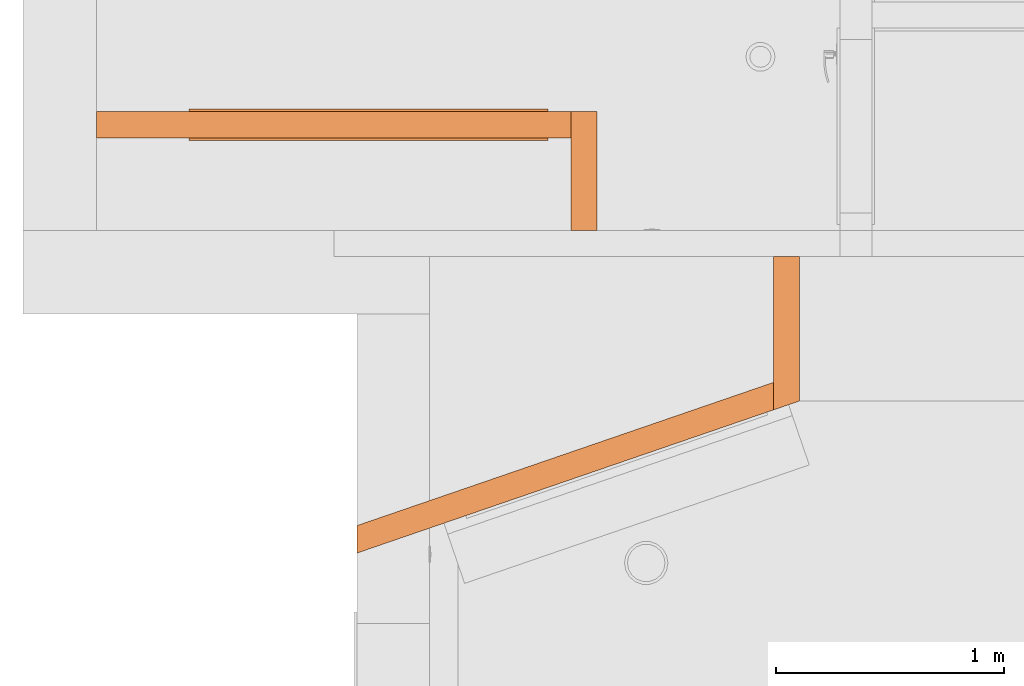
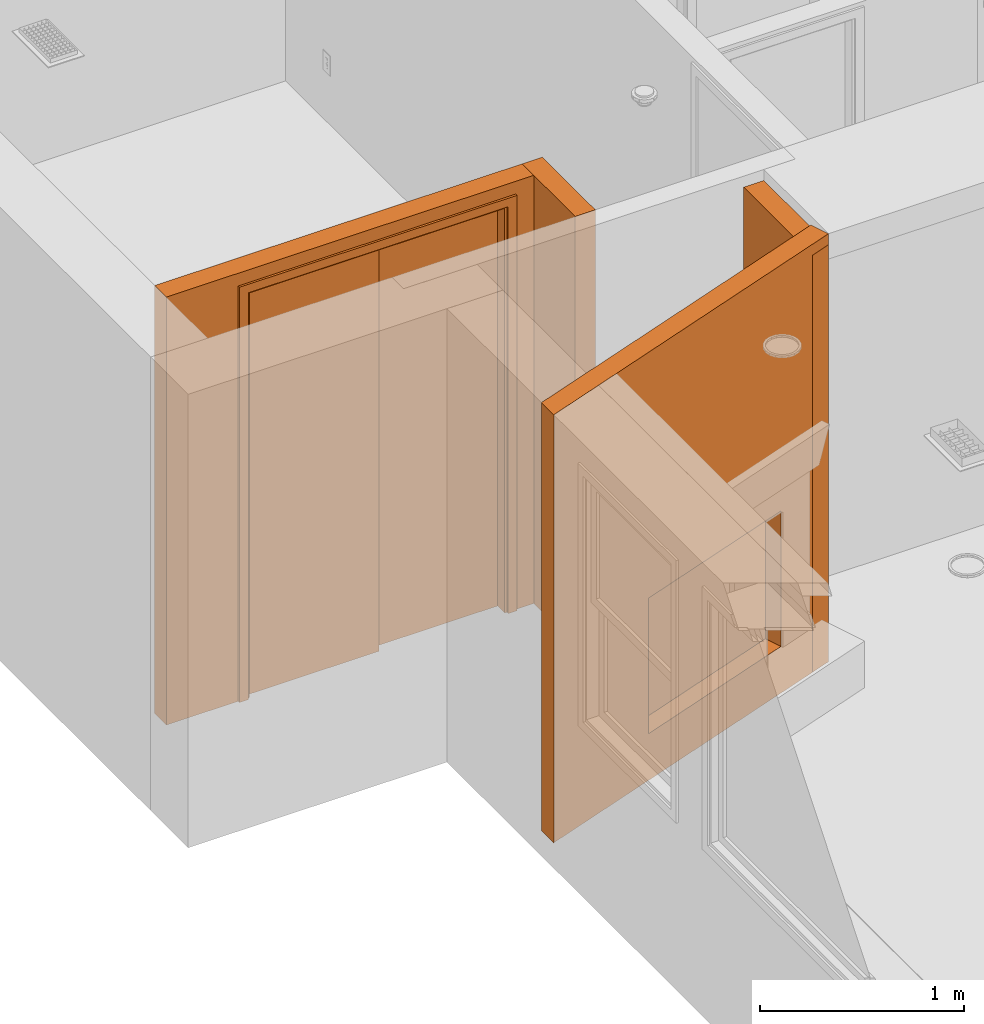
# One storey, part 39 of 48: 5 proxies.
"""IFC2X3 building model written with IfcOpenShell, lengths in inches."""

from ifc_helpers import new_model, entity, si_unit, converted_unit, derived_unit, money_unit, direction, frame, origin_with_axes, place, context, subcontext, project, spatial, faceted_brep, material, type_object, element, save


model = new_model("IFC2X3")

# Units and contexts
model_context = context("Model", 3, precision=0.00039370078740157, world=origin_with_axes(), true_north=direction((0.0, 1.0)))
plan_context = context("Plan", 3, precision=0.00039370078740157, world=origin_with_axes(), true_north=direction((0.0, 1.0)))
body_context = subcontext(model_context, "Body", "Model", "MODEL_VIEW")
ifc_project = project(units=[converted_unit("LENGTHUNIT", "INCH", entity("IfcPositiveLengthMeasure", 0.0254), si_unit("LENGTHUNIT", "METRE"), dimensions=[1, 0, 0, 0, 0, 0, 0]), converted_unit("AREAUNIT", "SQUARE_FOOT", entity("IfcPositiveLengthMeasure", 0.09290304), si_unit("AREAUNIT", "SQUARE_METRE"), dimensions=[2, 0, 0, 0, 0, 0, 0]), si_unit("PLANEANGLEUNIT", "RADIAN"), si_unit("SOLIDANGLEUNIT", "STERADIAN"), money_unit("USD"), converted_unit("TIMEUNIT", "Year", entity("IfcTimeMeasure", 31557600.0), si_unit("TIMEUNIT", "SECOND"), dimensions=[0, 0, 1, 0, 0, 0, 0]), si_unit("MASSUNIT", "GRAM", prefix="KILO"), si_unit("THERMODYNAMICTEMPERATUREUNIT", "DEGREE_CELSIUS"), si_unit("LUMINOUSINTENSITYUNIT", "LUMEN"), si_unit("ENERGYUNIT", "JOULE", prefix="MEGA"), derived_unit("SPECIFICHEATCAPACITYUNIT", [(si_unit("ENERGYUNIT", "JOULE"), 1), (si_unit("MASSUNIT", "GRAM", prefix="KILO"), -1), (si_unit("THERMODYNAMICTEMPERATUREUNIT", "KELVIN"), -1)])], contexts=[model_context, plan_context])

# Site, building, storey
site_placement = place(None, origin_with_axes())
site = spatial("IfcSite", under=ifc_project, at=site_placement, Name="Site", CompositionType="ELEMENT")
building_placement = place(site_placement, origin_with_axes())
building = spatial("IfcBuilding", under=site, at=building_placement, Name="Building", CompositionType="ELEMENT")
storey_placement = place(building_placement, origin_with_axes())
storey = spatial("IfcBuildingStorey", under=building, at=storey_placement, Name="First Floor", CompositionType="ELEMENT", Elevation=0.0)

# Proxies
ifc_material = material(Name="Generic - Structural")
building_element_proxy_type_1 = type_object("IfcBuildingElementProxyType", Name="Generic - Structural 4 1/2\"", PredefinedType="NOTDEFINED")
proxy_1_placement = place(storey_placement, frame((-128.0000381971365, 357.4999999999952, 0.0), z_axis=(0.0, 0.0, 1.0), x_axis=(-0.9456864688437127, -0.3250801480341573, 0.0)))
element("IfcBuildingElementProxy", 1, at=proxy_1_placement, inside=storey, type_object=building_element_proxy_type_1, material=ifc_material, Name="SW - 018", context=body_context, shape_type="Brep", body=[
    faceted_brep([(0.0, -4.500000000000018, 98.40281798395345), (0.0, -4.500000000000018, 100.9999999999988), (0.0, 0.0, 100.9999999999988), (0.0, 0.0, 98.40281798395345), (79.34670242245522, -4.500000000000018, 100.9999999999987), (67.67566799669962, -4.499999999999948, 100.9999999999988), (3.211566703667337, -4.499999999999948, 98.40281798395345), (3.211566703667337, -4.499999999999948, 0.0), (79.34670242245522, -4.500000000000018, 0.0), (67.67566799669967, 0.0, 100.9999999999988), (80.8935794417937, 0.0, 100.9999999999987), (80.89357944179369, 0.0, 0.0), (4.758450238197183, 0.0, 0.0), (4.758450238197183, 0.0, 98.40281798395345), (52.9999999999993, 0.0, 42.99999999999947), (13.99999999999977, 0.0, 42.99999999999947), (13.99999999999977, 0.0, 10.99999999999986), (52.9999999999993, 0.0, 10.99999999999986), (52.99999999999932, -4.00000000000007, 42.99999999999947), (13.99999999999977, -4.00000000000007, 42.99999999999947), (13.99999999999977, -4.00000000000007, 10.99999999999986), (52.99999999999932, -4.00000000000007, 10.99999999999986)], [[[0, 1, 2, 3]], [[4, 5, 1, 0, 6, 7, 8]], [[5, 9, 2, 1]], [[3, 2, 9, 10, 11, 12, 13], [14, 15, 16, 17]], [[13, 6, 0, 3]], [[10, 9, 5, 4]], [[13, 12, 7, 6]], [[11, 8, 7, 12]], [[10, 4, 8, 11]], [[14, 18, 19, 15]], [[15, 19, 20, 16]], [[16, 20, 21, 17]], [[17, 21, 18, 14]], [[18, 21, 20, 19]]]),
])
proxy_2_placement = place(storey_placement, frame((-162.999999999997, 386.9999999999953, 0.0), z_axis=(0.0, 0.0, 1.0), x_axis=(0.0, 1.0, 0.0)))
element("IfcBuildingElementProxy", 2, at=proxy_2_placement, inside=storey, type_object=building_element_proxy_type_1, material=ifc_material, Name="W-16", context=body_context, shape_type="Brep", body=[
    faceted_brep([(20.49999999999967, 0.0, 100.9999999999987), (20.49999999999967, 4.499999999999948, 100.9999999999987), (0.0, 4.499999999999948, 100.9999999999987), (0.0, 0.0, 100.9999999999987), (20.49999999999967, 0.0, 0.0), (20.49999999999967, 4.499999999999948, 0.0), (0.0, 4.499999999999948, 0.0), (0.0, 0.0, 0.0)], [[[0, 1, 2, 3]], [[1, 0, 4, 5]], [[1, 5, 6, 2]], [[7, 3, 2, 6]], [[4, 0, 3, 7]], [[5, 4, 7, 6]]]),
])
proxy_3_placement = place(storey_placement, frame((-127.9999999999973, 386.9999999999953, 0.0), z_axis=(0.0, 0.0, 1.0), x_axis=(-1.29481827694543e-06, -0.9999999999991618, 0.0)))
element("IfcBuildingElementProxy", 3, at=proxy_3_placement, inside=storey, type_object=building_element_proxy_type_1, material=ifc_material, Name="SW - 017", context=body_context, shape_type="Brep", body=[
    faceted_brep([(29.50000000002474, 0.0, 98.40281798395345), (4.500000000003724, 0.0, 98.40281798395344), (4.500005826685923, -4.49999999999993, 98.40281798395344), (31.04688353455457, -4.499999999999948, 98.40281798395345), (29.50000000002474, 0.0, 0.0), (4.500000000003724, 0.0, 0.0), (4.500005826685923, -4.49999999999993, 0.0), (31.04688353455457, -4.499999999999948, 0.0)], [[[0, 1, 2, 3]], [[4, 5, 1, 0]], [[5, 6, 2, 1]], [[3, 2, 6, 7]], [[0, 3, 7, 4]], [[7, 6, 5, 4]]]),
])
proxy_4_placement = place(storey_placement, frame((-162.999999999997, 407.4999999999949, 0.0), z_axis=(0.0, 0.0, 1.0), x_axis=(-1.0, 0.0, 0.0)))
element("IfcBuildingElementProxy", 4, at=proxy_4_placement, inside=storey, type_object=building_element_proxy_type_1, material=ifc_material, Name="W-17", context=body_context, shape_type="Brep", body=[
    faceted_brep([(68.49707239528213, 0.0, 95.9999999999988), (68.49707239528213, 0.0, 0.0), (86.49999999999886, 0.0, 0.0), (86.49999999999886, 0.0, 100.9999999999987), (4.499999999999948, 0.0, 100.9999999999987), (4.499999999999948, 0.0, 0.0), (10.49707239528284, 0.0, 0.0), (10.49707239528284, 0.0, 95.9999999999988), (68.49707239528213, 4.499999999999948, 95.9999999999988), (68.49707239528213, 4.499999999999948, 0.0), (86.49999999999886, 4.499999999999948, 0.0), (86.49999999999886, 4.499999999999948, 100.9999999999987), (4.499999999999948, 4.499999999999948, 100.9999999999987), (4.499999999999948, 4.499999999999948, 0.0), (10.49707239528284, 4.499999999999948, 0.0), (10.49707239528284, 4.499999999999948, 95.9999999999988)], [[[0, 1, 2, 3, 4, 5, 6, 7]], [[1, 0, 8, 9]], [[1, 9, 10, 2]], [[3, 2, 10, 11]], [[11, 12, 4, 3]], [[4, 12, 13, 5]], [[14, 6, 5, 13]], [[7, 6, 14, 15]], [[0, 7, 15, 8]], [[15, 14, 13, 12, 11, 10, 9, 8]]]),
])
building_element_proxy_type_2 = type_object("IfcBuildingElementProxyType", Name="D2 Sliding", PredefinedType="NOTDEFINED")
proxy_5_placement = place(storey_placement, frame((-231.4970723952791, 407.4999999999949, 0.0), z_axis=(0.0, 0.0, 1.0), x_axis=(1.0, 0.0, 0.0)))
element("IfcBuildingElementProxy", 5, at=proxy_5_placement, inside=storey, type_object=building_element_proxy_type_2, Name="DOO - 014", context=body_context, shape_type="Brep", body=[
    faceted_brep([(-1.999999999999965, -4.999999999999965, 0.0), (-1.999999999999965, -4.499999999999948, 0.0), (0.0, -4.499999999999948, 0.0), (0.0, -4.999999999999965, 0.0), (-1.999999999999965, -4.999999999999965, 97.99999999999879), (-1.999999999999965, -4.499999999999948, 97.99999999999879), (0.0, -4.499999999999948, 95.9999999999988), (0.0, -4.999999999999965, 95.9999999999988)], [[[0, 1, 2, 3]], [[4, 5, 1, 0]], [[1, 5, 6, 2]], [[3, 2, 6, 7]], [[0, 3, 7, 4]], [[7, 6, 5, 4]]]),
    faceted_brep([(59.99999999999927, -4.999999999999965, 97.99999999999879), (59.99999999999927, -4.499999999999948, 97.99999999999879), (57.9999999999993, -4.499999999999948, 95.9999999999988), (57.9999999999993, -4.999999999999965, 95.9999999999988), (59.99999999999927, -4.999999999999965, 0.0), (59.99999999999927, -4.499999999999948, 0.0), (57.9999999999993, -4.499999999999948, 0.0), (57.9999999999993, -4.999999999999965, 0.0)], [[[0, 1, 2, 3]], [[4, 5, 1, 0]], [[1, 5, 6, 2]], [[3, 2, 6, 7]], [[0, 3, 7, 4]], [[7, 6, 5, 4]]]),
    faceted_brep([(-1.999999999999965, -4.999999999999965, 97.99999999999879), (-1.999999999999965, -4.499999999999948, 97.99999999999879), (0.0, -4.499999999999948, 95.9999999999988), (0.0, -4.999999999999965, 95.9999999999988), (59.99999999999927, -4.999999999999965, 97.99999999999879), (59.99999999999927, -4.499999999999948, 97.99999999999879), (57.9999999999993, -4.499999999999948, 95.9999999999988), (57.9999999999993, -4.999999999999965, 95.9999999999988)], [[[0, 1, 2, 3]], [[4, 5, 1, 0]], [[1, 5, 6, 2]], [[3, 2, 6, 7]], [[0, 3, 7, 4]], [[7, 6, 5, 4]]]),
    faceted_brep([(-1.999999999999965, 0.5000000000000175, 0.0), (0.0, 0.5000000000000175, 0.0), (0.0, 0.0, 0.0), (-1.999999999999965, 0.0, 0.0), (-1.999999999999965, 0.5000000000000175, 97.99999999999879), (0.0, 0.5000000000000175, 95.9999999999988), (0.0, 0.0, 95.9999999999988), (-1.999999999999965, 0.0, 97.99999999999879)], [[[0, 1, 2, 3]], [[0, 4, 5, 1]], [[1, 5, 6, 2]], [[3, 2, 6, 7]], [[4, 0, 3, 7]], [[5, 4, 7, 6]]]),
    faceted_brep([(59.99999999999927, 0.4999999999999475, 97.99999999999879), (57.9999999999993, 0.4999999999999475, 95.9999999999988), (57.9999999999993, 0.0, 95.9999999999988), (59.99999999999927, 0.0, 97.99999999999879), (59.99999999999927, 0.5000000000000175, 0.0), (57.9999999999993, 0.5000000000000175, 0.0), (57.9999999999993, 0.0, 0.0), (59.99999999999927, 0.0, 0.0)], [[[0, 1, 2, 3]], [[0, 4, 5, 1]], [[1, 5, 6, 2]], [[3, 2, 6, 7]], [[4, 0, 3, 7]], [[5, 4, 7, 6]]]),
    faceted_brep([(-1.999999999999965, 0.5000000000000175, 97.99999999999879), (0.0, 0.5000000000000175, 95.9999999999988), (0.0, 0.0, 95.9999999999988), (-1.999999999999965, 0.0, 97.99999999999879), (59.99999999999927, 0.4999999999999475, 97.99999999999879), (57.9999999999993, 0.4999999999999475, 95.9999999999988), (57.9999999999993, 0.0, 95.9999999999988), (59.99999999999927, 0.0, 97.99999999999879)], [[[0, 1, 2, 3]], [[0, 4, 5, 1]], [[1, 5, 6, 2]], [[3, 2, 6, 7]], [[4, 0, 3, 7]], [[5, 4, 7, 6]]]),
    faceted_brep([(0.0, 0.0, 0.0), (0.5000000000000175, 0.0, 0.0), (0.5000000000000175, -4.499999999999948, 0.0), (0.0, -4.499999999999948, 0.0), (0.0, 0.0, 95.4999999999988), (0.5000000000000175, 0.0, 95.4999999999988), (0.5000000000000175, -4.499999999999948, 95.4999999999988), (0.0, -4.499999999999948, 95.4999999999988)], [[[0, 1, 2, 3]], [[0, 4, 5, 1]], [[1, 5, 6, 2]], [[3, 2, 6, 7]], [[4, 0, 3, 7]], [[5, 4, 7, 6]]]),
    faceted_brep([(57.9999999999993, 0.0, 0.0), (57.9999999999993, 0.0, 95.4999999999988), (57.9999999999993, -4.499999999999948, 95.4999999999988), (57.9999999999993, -4.499999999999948, 0.0), (57.49999999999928, 0.0, 0.0), (57.49999999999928, 0.0, 95.4999999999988), (57.49999999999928, -4.499999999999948, 95.4999999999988), (57.49999999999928, -4.499999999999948, 0.0)], [[[0, 1, 2, 3]], [[0, 4, 5, 1]], [[1, 5, 6, 2]], [[3, 2, 6, 7]], [[4, 0, 3, 7]], [[5, 4, 7, 6]]]),
    faceted_brep([(0.0, 0.0, 95.9999999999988), (0.0, 0.0, 95.4999999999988), (0.0, -4.499999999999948, 95.4999999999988), (0.0, -4.499999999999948, 95.9999999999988), (57.9999999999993, 0.0, 95.9999999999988), (57.9999999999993, 0.0, 95.4999999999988), (57.49999999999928, 0.0, 95.4999999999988), (0.5000000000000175, 0.0, 95.4999999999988), (0.5000000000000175, -4.499999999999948, 95.4999999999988), (57.49999999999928, -4.499999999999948, 95.4999999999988), (57.9999999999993, -4.499999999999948, 95.4999999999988), (57.9999999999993, -4.499999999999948, 95.9999999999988)], [[[0, 1, 2, 3]], [[0, 4, 5, 6, 7, 1]], [[1, 7, 8, 2]], [[3, 2, 8, 9, 10, 11]], [[4, 0, 3, 11]], [[5, 4, 11, 10]], [[6, 5, 10, 9]], [[7, 6, 9, 8]]]),
    faceted_brep([(28.03937007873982, -1.749999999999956, 0.03937007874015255), (57.46062992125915, -1.749999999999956, 0.03937007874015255), (57.46062992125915, -1.750000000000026, 95.46062992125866), (28.03937007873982, -1.749999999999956, 95.46062992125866), (57.46062992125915, 0.0, 0.03937007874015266), (28.03937007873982, 0.0, 0.03937007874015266), (57.46062992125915, 0.0, 95.46062992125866), (28.03937007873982, 0.0, 95.46062992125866)], [[[0, 1, 2, 3]], [[4, 1, 0, 5]], [[1, 4, 6, 2]], [[2, 6, 7, 3]], [[5, 0, 3, 7]], [[4, 5, 7, 6]]]),
    faceted_brep([(57.49999999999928, 0.0, 0.0), (57.49999999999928, -1.749999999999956, 0.0), (27.99999999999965, -1.749999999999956, 0.0), (27.99999999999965, 0.0, 0.0), (57.49999999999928, 0.0, 95.4999999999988), (57.49999999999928, -1.750000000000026, 95.4999999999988), (27.99999999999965, -1.749999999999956, 95.4999999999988), (57.46062992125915, -1.749999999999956, 0.03937007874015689), (28.03937007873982, -1.749999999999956, 0.03937007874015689), (28.03937007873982, -1.749999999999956, 95.46062992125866), (57.46062992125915, -1.750000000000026, 95.46062992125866), (27.99999999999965, 0.0, 95.4999999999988), (57.46062992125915, 0.0, 0.039370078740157), (57.46062992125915, 0.0, 95.46062992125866), (28.03937007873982, 0.0, 95.46062992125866), (28.03937007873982, 0.0, 0.039370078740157)], [[[0, 1, 2, 3]], [[4, 5, 1, 0]], [[1, 5, 6, 2], [7, 8, 9, 10]], [[3, 2, 6, 11]], [[0, 3, 11, 4], [12, 13, 14, 15]], [[11, 6, 5, 4]], [[15, 8, 7, 12]], [[14, 9, 8, 15]], [[13, 10, 9, 14]], [[12, 7, 10, 13]]]),
    faceted_brep([(0.5393700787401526, -3.499999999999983, 0.03937007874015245), (29.96062992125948, -3.499999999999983, 0.03937007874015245), (29.96062992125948, -3.499999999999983, 95.46062992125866), (0.5393700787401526, -3.499999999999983, 95.46062992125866), (29.96062992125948, -1.749999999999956, 0.03937007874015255), (0.5393700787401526, -1.749999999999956, 0.03937007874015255), (29.96062992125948, -1.749999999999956, 95.46062992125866), (0.5393700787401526, -1.749999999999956, 95.46062992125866)], [[[0, 1, 2, 3]], [[4, 1, 0, 5]], [[1, 4, 6, 2]], [[2, 6, 7, 3]], [[5, 0, 3, 7]], [[4, 5, 7, 6]]]),
    faceted_brep([(29.99999999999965, -1.749999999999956, 0.0), (29.99999999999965, -3.499999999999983, 0.0), (0.5000000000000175, -3.499999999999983, 0.0), (0.5000000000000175, -1.749999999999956, 0.0), (29.99999999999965, -1.749999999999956, 95.4999999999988), (29.99999999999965, -3.499999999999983, 95.4999999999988), (0.5000000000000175, -3.499999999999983, 95.4999999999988), (29.96062992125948, -3.499999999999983, 0.03937007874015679), (0.5393700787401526, -3.499999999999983, 0.03937007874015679), (0.5393700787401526, -3.499999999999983, 95.46062992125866), (29.96062992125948, -3.499999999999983, 95.46062992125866), (0.5000000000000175, -1.749999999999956, 95.4999999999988), (29.96062992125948, -1.749999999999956, 0.03937007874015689), (29.96062992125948, -1.749999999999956, 95.46062992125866), (0.5393700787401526, -1.749999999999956, 95.46062992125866), (0.5393700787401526, -1.749999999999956, 0.03937007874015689)], [[[0, 1, 2, 3]], [[4, 5, 1, 0]], [[1, 5, 6, 2], [7, 8, 9, 10]], [[3, 2, 6, 11]], [[0, 3, 11, 4], [12, 13, 14, 15]], [[11, 6, 5, 4]], [[15, 8, 7, 12]], [[14, 9, 8, 15]], [[13, 10, 9, 14]], [[12, 7, 10, 13]]]),
])

save(model, "model.ifc")
